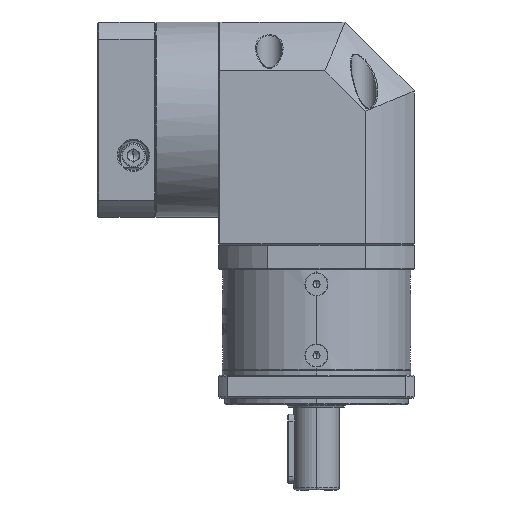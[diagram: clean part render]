
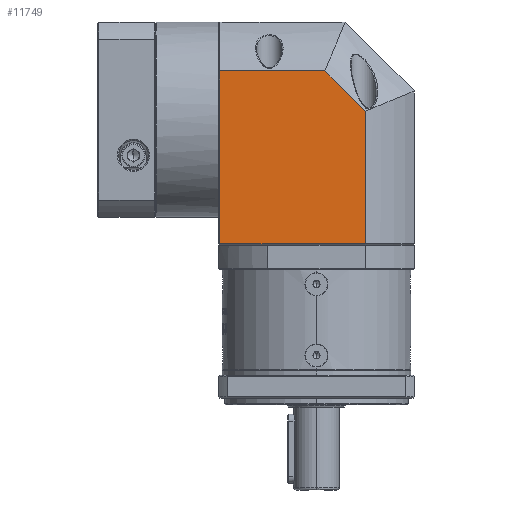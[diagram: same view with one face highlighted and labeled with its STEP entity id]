
A CAD part, left-side view. The second image highlights one B-rep face of the part: STEP entity #11749.
In plain terms, the highlighted planar face has unit normal (-1, 0, 0).
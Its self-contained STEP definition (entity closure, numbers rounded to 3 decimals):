
#1949 = LINE ( 'NONE', #156145, #145980 ) ;
#4850 = CARTESIAN_POINT ( 'NONE',  ( -15.33, 115.197, 1.315 ) ) ;
#7142 = ORIENTED_EDGE ( 'NONE', *, *, #102385, .F. ) ;
#9911 = VERTEX_POINT ( 'NONE', #146996 ) ;
#11749 = ADVANCED_FACE ( 'NONE', ( #123480 ), #49223, .F. ) ;
#14558 = DIRECTION ( 'NONE',  ( 0., -1., 0. ) ) ;
#19390 = DIRECTION ( 'NONE',  ( 0., 0., 1. ) ) ;
#21316 = CARTESIAN_POINT ( 'NONE',  ( -15.33, 69.514, 76.528 ) ) ;
#21782 = CARTESIAN_POINT ( 'NONE',  ( -15.33, 115.697, 97.815 ) ) ;
#22040 = LINE ( 'NONE', #159054, #91927 ) ;
#24765 = CARTESIAN_POINT ( 'NONE',  ( -15.33, 51.984, 58.998 ) ) ;
#35794 = DIRECTION ( 'NONE',  ( 0., 1., 0. ) ) ;
#48409 = EDGE_LOOP ( 'NONE', ( #177230, #120480, #61587, #174888, #7142 ) ) ;
#49223 = PLANE ( 'NONE',  #103346 ) ;
#50974 = DIRECTION ( 'NONE',  ( 0., -1., 0. ) ) ;
#54918 = EDGE_CURVE ( 'NONE', #63051, #71008, #1949, .T. ) ;
#57151 = VECTOR ( 'NONE', #50974, 1000. ) ;
#58564 = DIRECTION ( 'NONE',  ( 0., 0., -1. ) ) ;
#61587 = ORIENTED_EDGE ( 'NONE', *, *, #77385, .F. ) ;
#63051 = VERTEX_POINT ( 'NONE', #24765 ) ;
#64772 = VECTOR ( 'NONE', #14558, 1000. ) ;
#71008 = VERTEX_POINT ( 'NONE', #155433 ) ;
#77173 = VERTEX_POINT ( 'NONE', #4850 ) ;
#77385 = EDGE_CURVE ( 'NONE', #137447, #63051, #131837, .T. ) ;
#78712 = DIRECTION ( 'NONE',  ( 0., -0.707, -0.707 ) ) ;
#91927 = VECTOR ( 'NONE', #19390, 1000. ) ;
#94337 = EDGE_CURVE ( 'NONE', #77173, #71008, #164067, .T. ) ;
#94761 = VECTOR ( 'NONE', #78712, 1000. ) ;
#102385 = EDGE_CURVE ( 'NONE', #77173, #9911, #22040, .T. ) ;
#103346 = AXIS2_PLACEMENT_3D ( 'NONE', #21782, #119414, #35794 ) ;
#106267 = LINE ( 'NONE', #136180, #64772 ) ;
#119414 = DIRECTION ( 'NONE',  ( 1., 0., 0. ) ) ;
#120480 = ORIENTED_EDGE ( 'NONE', *, *, #54918, .F. ) ;
#123480 = FACE_OUTER_BOUND ( 'NONE', #48409, .T. ) ;
#128324 = CARTESIAN_POINT ( 'NONE',  ( -15.33, 69.514, 76.528 ) ) ;
#131837 = LINE ( 'NONE', #21316, #94761 ) ;
#134610 = CARTESIAN_POINT ( 'NONE',  ( -15.33, 115.697, 1.315 ) ) ;
#136180 = CARTESIAN_POINT ( 'NONE',  ( -15.33, 115.697, 76.528 ) ) ;
#137447 = VERTEX_POINT ( 'NONE', #128324 ) ;
#145980 = VECTOR ( 'NONE', #58564, 1000. ) ;
#146996 = CARTESIAN_POINT ( 'NONE',  ( -15.33, 115.197, 76.528 ) ) ;
#147775 = EDGE_CURVE ( 'NONE', #9911, #137447, #106267, .T. ) ;
#155433 = CARTESIAN_POINT ( 'NONE',  ( -15.33, 51.984, 1.315 ) ) ;
#156145 = CARTESIAN_POINT ( 'NONE',  ( -15.33, 51.984, 101.315 ) ) ;
#159054 = CARTESIAN_POINT ( 'NONE',  ( -15.33, 115.197, 97.815 ) ) ;
#164067 = LINE ( 'NONE', #134610, #57151 ) ;
#174888 = ORIENTED_EDGE ( 'NONE', *, *, #147775, .F. ) ;
#177230 = ORIENTED_EDGE ( 'NONE', *, *, #94337, .T. ) ;
